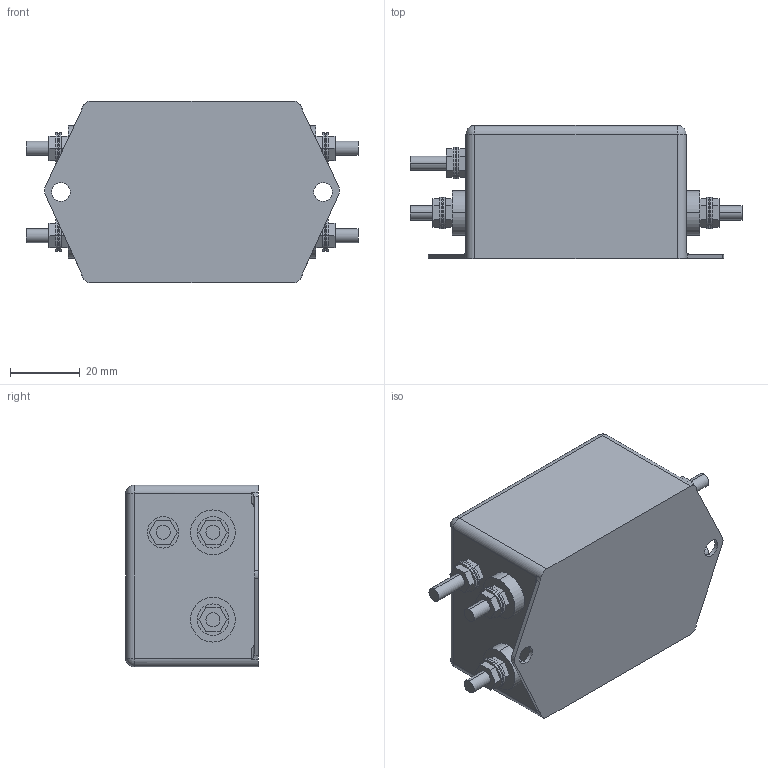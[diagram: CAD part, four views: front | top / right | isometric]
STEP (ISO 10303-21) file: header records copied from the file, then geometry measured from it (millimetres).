
FILE_DESCRIPTION (( 'STEP AP214' ), '1' );
FILE_NAME ('NF-30-1ph-GSC.STEP', '2025-08-20T08:44:23', ( '' ), ( '' ), 'SwSTEP 2.0', 'SolidWorks 2025', '' );
FILE_SCHEMA (( 'AUTOMOTIVE_DESIGN' ));
Length unit declared in the file: millimetre
Products named in the file (5): AS 1474 - M4_1.stp.SLDPRT; NF-30-1ph-GSC.stp; 1000-008.0009_1.stp; NF-30-1ph-GSC; DIN 125-1 - B 4.3_1.stp
Assembly tree (22 placements, depth 3):
  NF-30-1ph-GSC
    NF-30-1ph-GSC.stp
      1000-008.0009_1.stp
      DIN 125-1 - B 4.3_1.stp  x10
      AS 1474 - M4_1.stp.SLDPRT  x10
Bounding box: 95 x 38 x 52 mm (x, y, z)
Volume: 126858.6 mm3; surface area: 21702 mm2
Topology: 21 solids, 24 shells, 305 faces, 672 edges, 420 vertices
Faces by surface type: plane 127, cylinder 106, cone 60, torus 4, sphere 4, bspline 4
Entity records: 3329 total; most frequent: CARTESIAN_POINT 655, DIRECTION 580, ORIENTED_EDGE 472, EDGE_CURVE 236, AXIS2_PLACEMENT_3D 235, VERTEX_POINT 150, EDGE_LOOP 124, LINE 110
